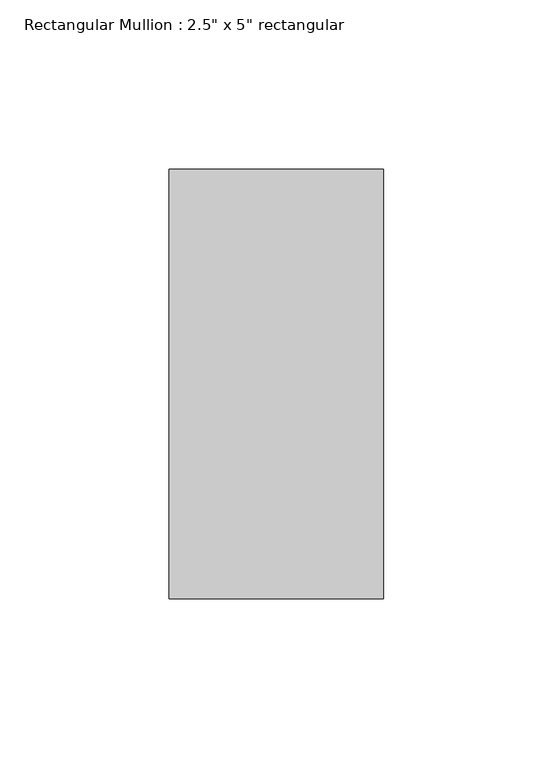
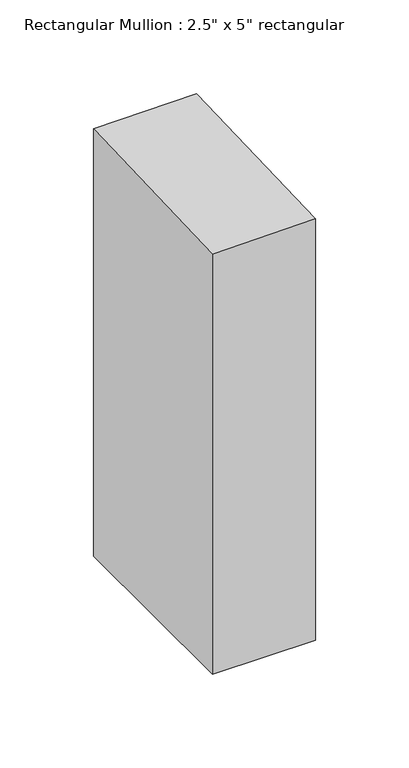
"""IFC4 building model written with IfcOpenShell, lengths in millimetres: member geometry."""

from ifc_helpers import new_model, si_unit, origin, place, context, project, spatial, faceted_brep, source, transform, mapped, element, save


def member_4b661e2a(model_context):
    return source(origin(), model_context, "Body", "Brep", [
        faceted_brep([(0.0, 63.5, -276.8917773), (0.0, -63.5, -276.8917773), (-63.5, -63.5, -276.8917773), (-63.5, 63.5, -276.8917773), (-63.5, 63.5, 1.5408388), (0.0, 63.5, 2.3203589), (-63.5, -63.5, -3.0998791), (0.0, -63.5, -2.3203589)], [[[0, 1, 2, 3]], [[4, 5, 0, 3]], [[6, 4, 3, 2]], [[7, 6, 2, 1]], [[5, 7, 1, 0]], [[5, 4, 6, 7]]]),
    ])


if __name__ == "__main__":
    model = new_model("IFC4")
    model_context = context("Model", 3, world=origin())
    ifc_project = project(units=[si_unit("LENGTHUNIT", "METRE", prefix="MILLI")], contexts=[model_context])
    site = spatial("IfcSite", under=ifc_project)
    building = spatial("IfcBuilding", under=site)
    placement = place(None, origin())
    member_shape = member_4b661e2a(model_context)
    element("IfcMember", 1, ObjectType="Rectangular Mullion : 2.5\" x 5\" rectangular", at=placement, inside=building, context=model_context, shape_type="MappedRepresentation", body=[
        mapped(member_shape, transform((0.0, 0.0, 0.0), x_axis=(1.0, 0.0, 0.0), y_axis=(0.0, 1.0, 0.0), z_axis=(0.0, 0.0, 1.0))),
    ])
    save(model, "model.ifc")
